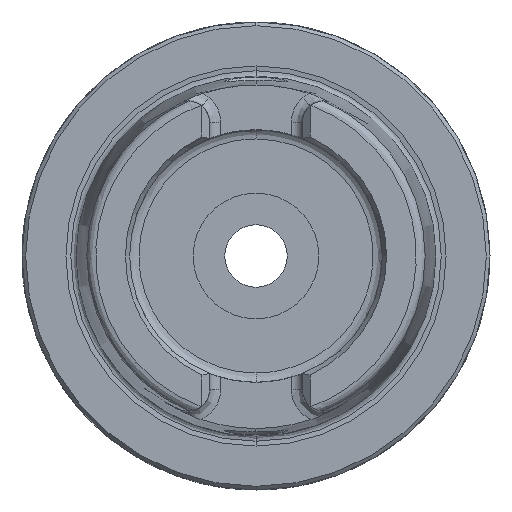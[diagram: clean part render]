
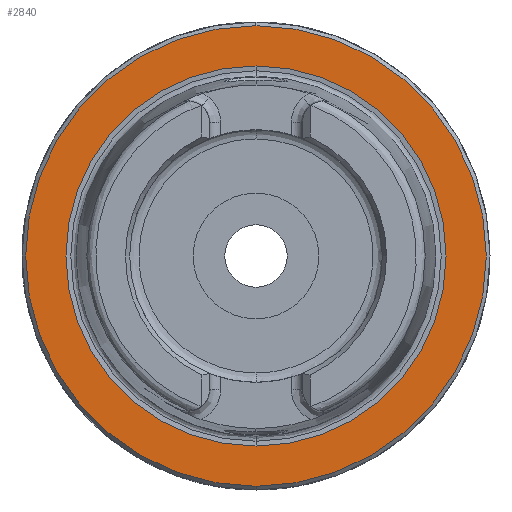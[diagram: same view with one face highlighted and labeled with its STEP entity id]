
A CAD part, left-side view. The second image highlights one B-rep face of the part: STEP entity #2840.
In plain terms, the highlighted planar face has unit normal (-1, 0, 0).
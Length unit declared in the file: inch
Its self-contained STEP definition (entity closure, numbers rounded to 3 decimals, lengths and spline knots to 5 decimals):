
#264 = CARTESIAN_POINT ( 'NONE',  ( 0., 0., -1.0074 ) ) ;
#434 = ORIENTED_EDGE ( 'NONE', *, *, #4269, .T. ) ;
#457 = CARTESIAN_POINT ( 'NONE',  ( 0., 0., 0. ) ) ;
#538 = CARTESIAN_POINT ( 'NONE',  ( 0., 0., 1.22047 ) ) ;
#763 = VERTEX_POINT ( 'NONE', #264 ) ;
#1180 = DIRECTION ( 'NONE',  ( 1., 0., 0. ) ) ;
#1687 = EDGE_CURVE ( 'NONE', #8224, #4124, #4447, .T. ) ;
#1808 = CIRCLE ( 'NONE', #6027, 1.22047 ) ;
#1859 = DIRECTION ( 'NONE',  ( 0., 0., -1. ) ) ;
#1941 = EDGE_CURVE ( 'NONE', #4124, #8224, #1808, .T. ) ;
#2061 = ORIENTED_EDGE ( 'NONE', *, *, #1687, .F. ) ;
#2673 = FACE_OUTER_BOUND ( 'NONE', #4314, .T. ) ;
#2784 = CIRCLE ( 'NONE', #4552, 1.0074 ) ;
#2840 = ADVANCED_FACE ( 'NONE', ( #4583, #2673 ), #7910, .T. ) ;
#2876 = DIRECTION ( 'NONE',  ( -1., 0., 0. ) ) ;
#2972 = DIRECTION ( 'NONE',  ( 0., 0., 1. ) ) ;
#3181 = AXIS2_PLACEMENT_3D ( 'NONE', #5457, #2876, #6707 ) ;
#3407 = DIRECTION ( 'NONE',  ( 0., 0., -1. ) ) ;
#3523 = CARTESIAN_POINT ( 'NONE',  ( 0., 0., 1.0074 ) ) ;
#3935 = EDGE_LOOP ( 'NONE', ( #4087, #434 ) ) ;
#3955 = CARTESIAN_POINT ( 'NONE',  ( 0., 0., 0. ) ) ;
#4087 = ORIENTED_EDGE ( 'NONE', *, *, #5325, .T. ) ;
#4124 = VERTEX_POINT ( 'NONE', #538 ) ;
#4125 = DIRECTION ( 'NONE',  ( 0., 0., 1. ) ) ;
#4269 = EDGE_CURVE ( 'NONE', #763, #4841, #2784, .T. ) ;
#4286 = AXIS2_PLACEMENT_3D ( 'NONE', #5435, #4842, #4125 ) ;
#4314 = EDGE_LOOP ( 'NONE', ( #2061, #5195 ) ) ;
#4375 = CARTESIAN_POINT ( 'NONE',  ( 0., 0., -1.22047 ) ) ;
#4447 = CIRCLE ( 'NONE', #5515, 1.22047 ) ;
#4552 = AXIS2_PLACEMENT_3D ( 'NONE', #457, #1180, #2972 ) ;
#4583 = FACE_BOUND ( 'NONE', #3935, .T. ) ;
#4841 = VERTEX_POINT ( 'NONE', #3523 ) ;
#4842 = DIRECTION ( 'NONE',  ( 1., 0., 0. ) ) ;
#4846 = DIRECTION ( 'NONE',  ( 1., 0., 0. ) ) ;
#5090 = CIRCLE ( 'NONE', #4286, 1.0074 ) ;
#5195 = ORIENTED_EDGE ( 'NONE', *, *, #1941, .F. ) ;
#5325 = EDGE_CURVE ( 'NONE', #4841, #763, #5090, .T. ) ;
#5435 = CARTESIAN_POINT ( 'NONE',  ( 0., 0., 0. ) ) ;
#5457 = CARTESIAN_POINT ( 'NONE',  ( 0., 1.22047, 0. ) ) ;
#5515 = AXIS2_PLACEMENT_3D ( 'NONE', #3955, #7871, #1859 ) ;
#6027 = AXIS2_PLACEMENT_3D ( 'NONE', #8020, #4846, #3407 ) ;
#6707 = DIRECTION ( 'NONE',  ( 0., 0., 1. ) ) ;
#7871 = DIRECTION ( 'NONE',  ( 1., 0., 0. ) ) ;
#7910 = PLANE ( 'NONE',  #3181 ) ;
#8020 = CARTESIAN_POINT ( 'NONE',  ( 0., 0., 0. ) ) ;
#8224 = VERTEX_POINT ( 'NONE', #4375 ) ;
